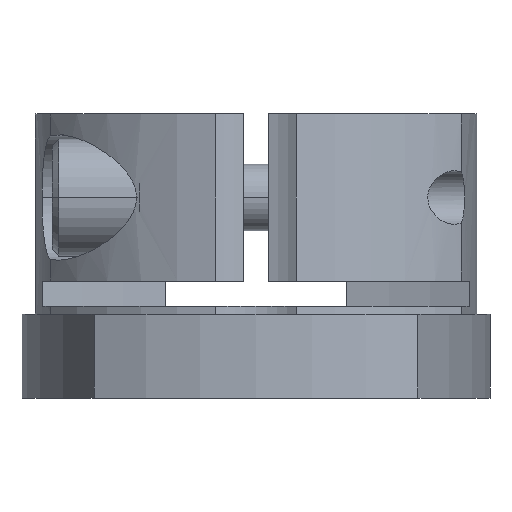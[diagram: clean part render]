
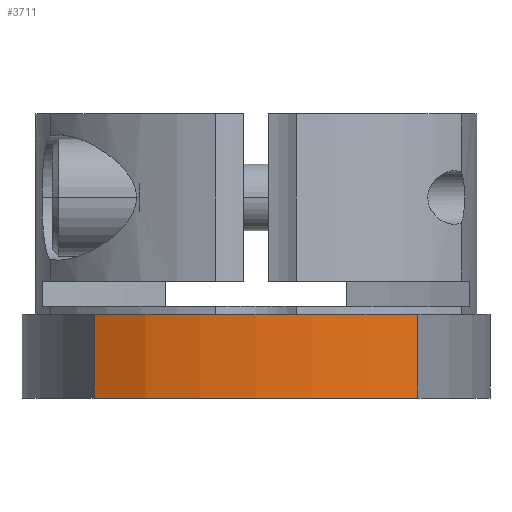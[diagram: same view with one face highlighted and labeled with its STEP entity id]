
A CAD part, front view. The second image highlights one B-rep face of the part: STEP entity #3711.
In plain terms, the highlighted cylindrical face has radius 22.5 mm (diameter 45 mm), a partial arc.
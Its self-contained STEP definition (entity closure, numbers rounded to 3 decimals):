
#3160=CARTESIAN_POINT('',(9.691,-20.306,2.5));
#3161=VERTEX_POINT('',#3160);
#3162=CARTESIAN_POINT('',(-9.691,-20.306,2.5));
#3163=VERTEX_POINT('',#3162);
#3164=CARTESIAN_POINT('',(0.,0.0,2.5));
#3165=DIRECTION('',(0.0,0.0,-1.0));
#3166=DIRECTION('',(1.0,0.0,0.0));
#3167=AXIS2_PLACEMENT_3D('',#3164,#3165,#3166);
#3168=CIRCLE('',#3167,22.5);
#3169=EDGE_CURVE('',#3161,#3163,#3168,.T.);
#3577=CARTESIAN_POINT('',(9.691,-20.306,-2.5));
#3578=VERTEX_POINT('',#3577);
#3579=CARTESIAN_POINT('',(-9.691,-20.306,-2.5));
#3580=VERTEX_POINT('',#3579);
#3581=CARTESIAN_POINT('',(0.,0.0,-2.5));
#3582=DIRECTION('',(0.0,0.0,-1.0));
#3583=DIRECTION('',(1.0,0.0,0.0));
#3584=AXIS2_PLACEMENT_3D('',#3581,#3582,#3583);
#3585=CIRCLE('',#3584,22.5);
#3586=EDGE_CURVE('',#3578,#3580,#3585,.T.);
#3661=CARTESIAN_POINT('',(-9.691,-20.306,-2.5));
#3662=DIRECTION('',(0.0,0.0,1.0));
#3663=VECTOR('',#3662,5.0);
#3664=LINE('',#3661,#3663);
#3665=EDGE_CURVE('',#3580,#3163,#3664,.T.);
#3690=CARTESIAN_POINT('',(9.691,-20.306,-2.5));
#3691=DIRECTION('',(0.0,0.0,1.0));
#3692=VECTOR('',#3691,5.0);
#3693=LINE('',#3690,#3692);
#3694=EDGE_CURVE('',#3578,#3161,#3693,.T.);
#3700=CARTESIAN_POINT('',(0.,0.0,-2.5));
#3701=DIRECTION('',(0.0,0.0,1.0));
#3702=DIRECTION('',(1.0,0.0,0.0));
#3703=AXIS2_PLACEMENT_3D('',#3700,#3701,#3702);
#3704=CYLINDRICAL_SURFACE('',#3703,22.5);
#3705=ORIENTED_EDGE('',*,*,#3169,.T.);
#3706=ORIENTED_EDGE('',*,*,#3665,.F.);
#3707=ORIENTED_EDGE('',*,*,#3586,.F.);
#3708=ORIENTED_EDGE('',*,*,#3694,.T.);
#3709=EDGE_LOOP('',(#3705,#3706,#3707,#3708));
#3710=FACE_OUTER_BOUND('',#3709,.T.);
#3711=ADVANCED_FACE('',(#3710),#3704,.T.);
